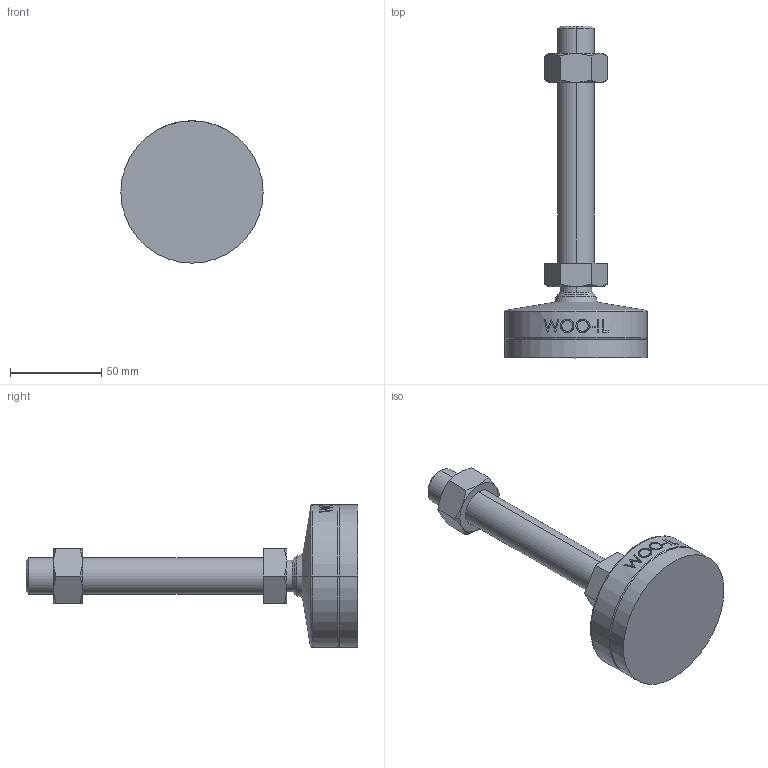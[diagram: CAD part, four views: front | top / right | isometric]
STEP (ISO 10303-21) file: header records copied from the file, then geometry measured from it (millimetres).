
FILE_DESCRIPTION (( 'STEP AP214' ), '1' );
FILE_NAME ('MFNR78-M20-130.step', '2021-02-22T09:08:34', ( '' ), ( '' ), 'SwSTEP 2.0', 'SolidWorks 2019', '' );
FILE_SCHEMA (( 'AUTOMOTIVE_DESIGN' ));
Length unit declared in the file: millimetre
Products named in the file (2): MFNR78-M20-130
Bounding box: 78 x 182 x 78 mm (x, y, z)
Volume: 195029.1 mm3; surface area: 30706.9 mm2
Topology: 2 solids, 2 shells, 105 faces, 245 edges, 156 vertices
Faces by surface type: plane 47, cone 18, cylinder 18, bspline 16, torus 4, sphere 2
Entity records: 4529 total; most frequent: CARTESIAN_POINT 2192, ORIENTED_EDGE 490, DIRECTION 437, EDGE_CURVE 245, AXIS2_PLACEMENT_3D 167, VERTEX_POINT 156, EDGE_LOOP 119, FACE_OUTER_BOUND 105
